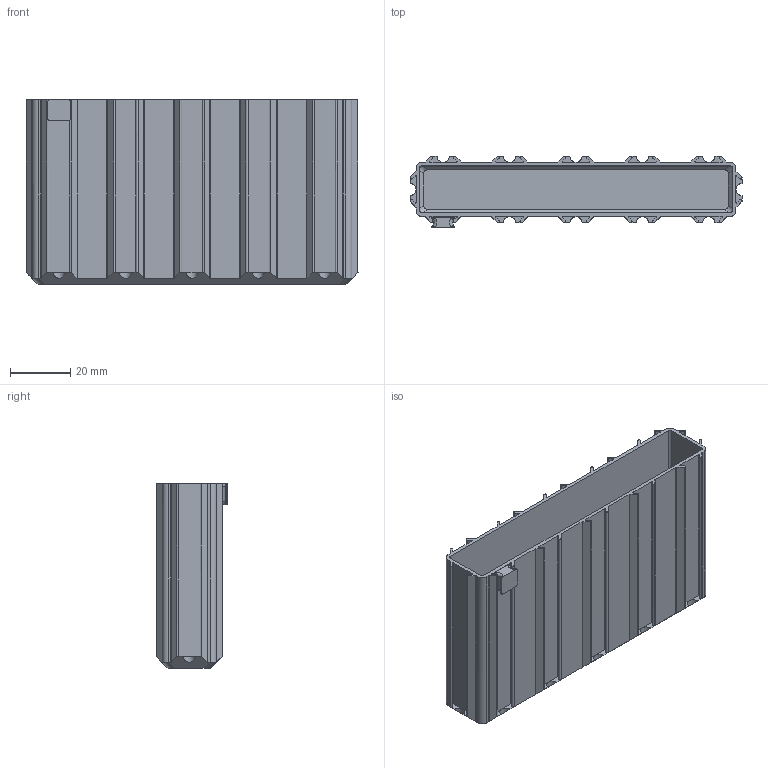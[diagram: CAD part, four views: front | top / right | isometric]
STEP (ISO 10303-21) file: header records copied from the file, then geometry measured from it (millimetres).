
FILE_DESCRIPTION(/* description */ (''),/* implementation_level */ '2;1');
FILE_NAME(/* name */ 'BOX_x05_y01_z060_tx0_ty0.stp',/* time_stamp */ '2024-02-16T08:36:25+01:00',/* author */ ('ott'),/* organization */ (''),/* preprocessor_version */ 'ST-DEVELOPER v19.2',/* originating_system */ 'Autodesk Inventor 2023',/* authorisation */ '');
FILE_SCHEMA (('AUTOMOTIVE_DESIGN { 1 0 10303 214 3 1 1 }'));
Length unit declared in the file: millimetre
Products named in the file (1): BOX_x05_y01_z060_tx0_ty0
Bounding box: 110 x 23.8 x 61.2 mm (x, y, z)
Volume: 22601.6 mm3; surface area: 38695 mm2
Topology: 2 solids, 2 shells, 235 faces, 664 edges, 434 vertices
Faces by surface type: plane 127, cylinder 104, torus 4
Entity records: 8004 total; most frequent: CARTESIAN_POINT 1414, DIRECTION 1372, ORIENTED_EDGE 1328, EDGE_CURVE 664, AXIS2_PLACEMENT_3D 480, VERTEX_POINT 434, LINE 412, VECTOR 412
